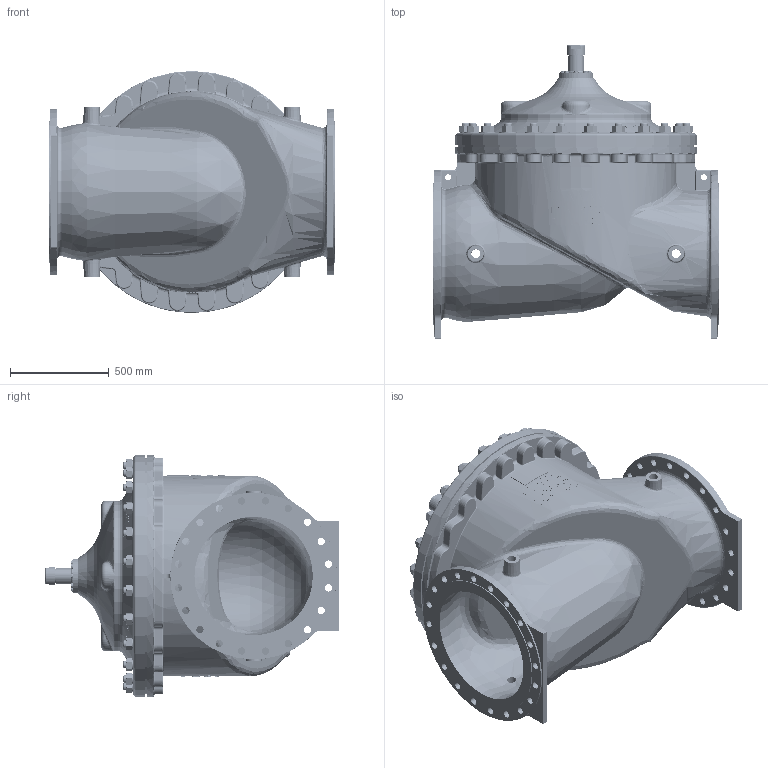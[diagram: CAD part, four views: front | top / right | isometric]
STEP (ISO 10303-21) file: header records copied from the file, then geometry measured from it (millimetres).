
FILE_DESCRIPTION(/* description */ ('TYTAN-S DN 600 / PN 16'),/* implementation_level */ '2;1');
FILE_NAME(/* name */ 'G:\Doc_Liberes\SymbolesCAD\Modeles_3D\FichierSTP\VanneDeBase\TytanS600-16RF.stp',/* time_stamp */ '2017-09-12T16:21:12+02:00',/* author */ ('sylvain'),/* organization */ (''),/* preprocessor_version */ 'ST-DEVELOPER v16.13',/* originating_system */ 'Autodesk Inventor 2018',/* authorisation */ '');
FILE_SCHEMA (('CONFIG_CONTROL_DESIGN'));
Products named in the file (13): VBT1HT6002-KCOS; 22096-01/KC; 22009-01; ANSI/ASME B18.2.1 - 1/2-13 UNC - 1.5; 57009; ORN2400; 22002-01G; 57231-01; 57232-01; ANSI B18.22.1 - 1 1/2 - large - Type A; ANSI B18.22.1 - 1/2 - proche - Type B; ISO 4026 - M16 x 30; 57860-16
Assembly tree (95 placements, depth 2):
  VBT1HT6002-KCOS
    22096-01/KC
    22009-01
    ANSI/ASME B18.2.1 - 1/2-13 UNC - 1.5  x8
    57009
    ORN2400
    22002-01G
    57231-01  x24
    57232-01  x24
    ANSI B18.22.1 - 1 1/2 - large - Type A  x24
    ANSI B18.22.1 - 1/2 - proche - Type B  x8
    ISO 4026 - M16 x 30
    57860-16
Bounding box: 1450 x 1484.8 x 1225 mm (x, y, z)
Volume: 223682024.7 mm3; surface area: 16070969 mm2
Topology: 95 solids, 95 shells, 4767 faces, 12466 edges, 8047 vertices
Faces by surface type: plane 1725, cone 1287, bspline 986, cylinder 595, torus 165, sphere 9
Full cylindrical faces by diameter (mm): 4 x1, 7.8 x16, 11.43 x8, 12.7 x8, 13.081 x8, 13.487 x8, 13.5 x8, 16 x1, 19.05 x8, 25.4 x8, 26.21 x4, 30 x2, 30.29 x1, 33.53 x48, 37 x40, 38.1 x24, 41.275 x24, 42 x24, 44.85 x8, 50 x24, 54.1 x1, 60 x1, 65.5 x1, 68.12 x1, 69.85 x1, 73.38 x1, 75 x1, 76 x1, 80 x1, 88.9 x24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
Entity records: 141503 total; most frequent: CARTESIAN_POINT 50940, DIRECTION 19244, ORIENTED_EDGE 18566, EDGE_CURVE 9283, AXIS2_PLACEMENT_3D 8747, VERTEX_POINT 6189, CIRCLE 4762, EDGE_LOOP 4166
